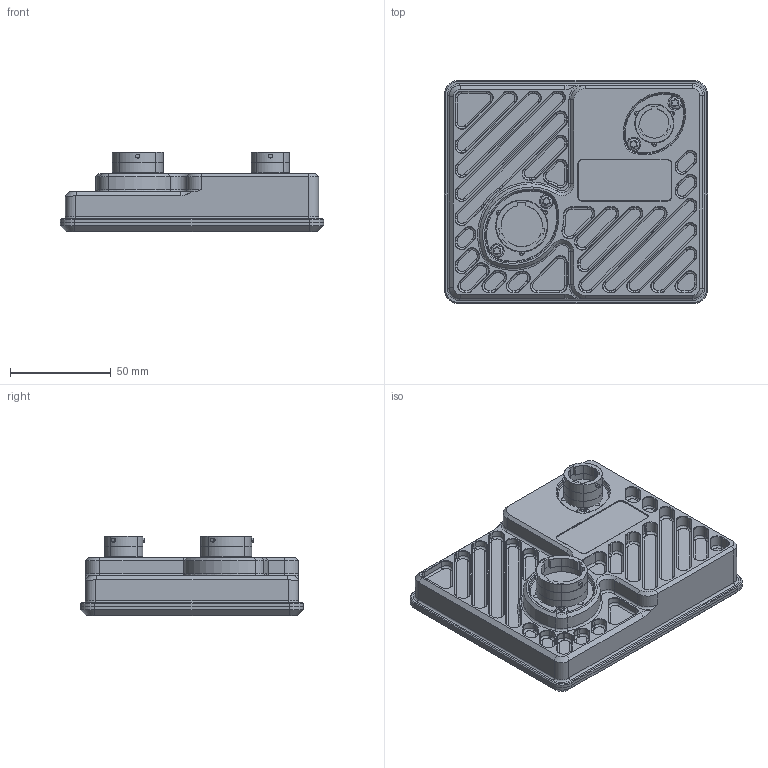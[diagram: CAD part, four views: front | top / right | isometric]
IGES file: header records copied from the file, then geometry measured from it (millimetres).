
Start section: START RECORD GO HERE.
Global section: file name: GDI8 Assembly.igs; native system: DASSAULT SYSTEMES CATIA V5 R19 - www.3ds.com; preprocessor: CATIA Version 5 Release 19 SP 9 ; author: mark.labudek; organization: MAPRECISION; date: 20260529.143717; units: millimetre
Bounding box: 131 x 111 x 39.76 mm (x, y, z)
Surface area: 91998.5 mm2 (no closed solid volume)
Topology: 0 solids, 0 shells, 1628 faces, 7470 edges, 7470 vertices
Faces by surface type: revolution 1088, plane 438, bspline 102
